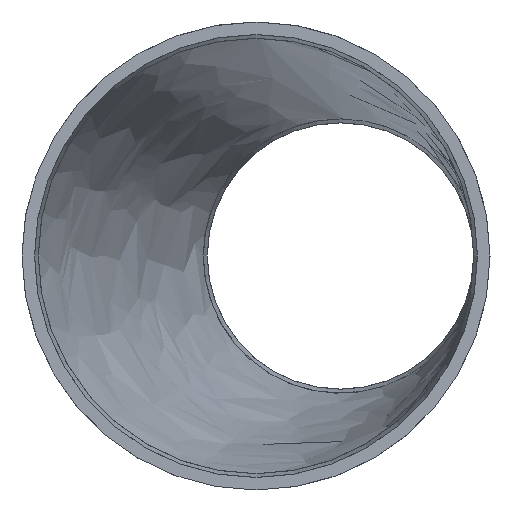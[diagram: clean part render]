
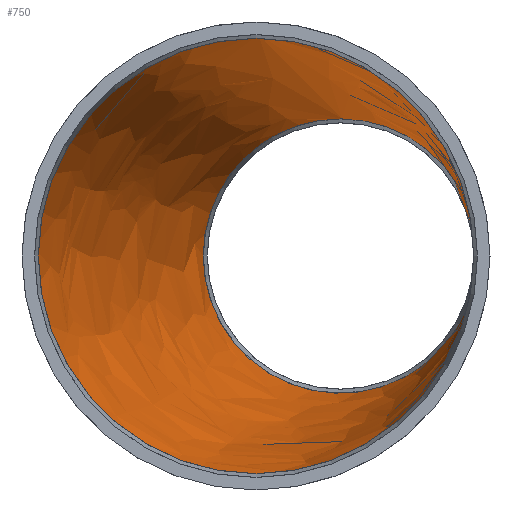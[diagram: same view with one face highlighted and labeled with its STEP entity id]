
A CAD part, left-side view. The second image highlights one B-rep face of the part: STEP entity #750.
In plain terms, the highlighted free-form (B-spline) face has degree [1, 2] with [2, 9] control points.
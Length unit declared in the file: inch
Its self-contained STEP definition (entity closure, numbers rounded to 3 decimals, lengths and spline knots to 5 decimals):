
#57=B_SPLINE_CURVE_WITH_KNOTS('',1,(#1385,#1386),.UNSPECIFIED.,.F.,.F.,
(2,2),(0.00123,3.55333),.UNSPECIFIED.);
#59=(
BOUNDED_SURFACE()
B_SPLINE_SURFACE(1,2,((#1367,#1368,#1369,#1370,#1371,#1372,#1373,#1374,
#1375),(#1376,#1377,#1378,#1379,#1380,#1381,#1382,#1383,#1384)),
 .UNSPECIFIED.,.F.,.T.,.F.)
B_SPLINE_SURFACE_WITH_KNOTS((2,2),(3,2,2,2,3),(-0.11192,3.61918),
(-3.14159,-1.5708,0.,1.5708,3.14159),
 .UNSPECIFIED.)
GEOMETRIC_REPRESENTATION_ITEM()
RATIONAL_B_SPLINE_SURFACE(((1.,0.707,1.,0.707,1.,
0.707,1.,0.707,1.),(1.,0.707,1.,0.707,
1.,0.707,1.,0.707,1.)))
REPRESENTATION_ITEM('')
SURFACE()
);
#127=FACE_OUTER_BOUND('',#159,.T.);
#159=EDGE_LOOP('',(#612,#613,#614,#615,#616,#617,#618,#619,#620,#621));
#209=CIRCLE('',#823,2.13);
#210=CIRCLE('',#824,2.13);
#211=CIRCLE('',#825,2.13);
#212=CIRCLE('',#826,2.13);
#223=CIRCLE('',#840,1.32);
#224=CIRCLE('',#841,1.32);
#225=CIRCLE('',#842,1.32);
#226=CIRCLE('',#843,1.32);
#298=VERTEX_POINT('',#1280);
#299=VERTEX_POINT('',#1281);
#300=VERTEX_POINT('',#1283);
#301=VERTEX_POINT('',#1285);
#311=VERTEX_POINT('',#1312);
#312=VERTEX_POINT('',#1313);
#313=VERTEX_POINT('',#1315);
#314=VERTEX_POINT('',#1317);
#391=EDGE_CURVE('',#298,#299,#209,.T.);
#392=EDGE_CURVE('',#299,#300,#210,.T.);
#393=EDGE_CURVE('',#300,#301,#211,.T.);
#395=EDGE_CURVE('',#301,#298,#212,.T.);
#407=EDGE_CURVE('',#311,#312,#223,.T.);
#408=EDGE_CURVE('',#312,#313,#224,.T.);
#409=EDGE_CURVE('',#313,#314,#225,.T.);
#411=EDGE_CURVE('',#314,#311,#226,.T.);
#435=EDGE_CURVE('',#299,#313,#57,.T.);
#612=ORIENTED_EDGE('',*,*,#391,.F.);
#613=ORIENTED_EDGE('',*,*,#395,.F.);
#614=ORIENTED_EDGE('',*,*,#393,.F.);
#615=ORIENTED_EDGE('',*,*,#392,.F.);
#616=ORIENTED_EDGE('',*,*,#435,.T.);
#617=ORIENTED_EDGE('',*,*,#408,.F.);
#618=ORIENTED_EDGE('',*,*,#407,.F.);
#619=ORIENTED_EDGE('',*,*,#411,.F.);
#620=ORIENTED_EDGE('',*,*,#409,.F.);
#621=ORIENTED_EDGE('',*,*,#435,.F.);
#750=ADVANCED_FACE('',(#127),#59,.T.);
#823=AXIS2_PLACEMENT_3D('',#1282,#1004,#1005);
#824=AXIS2_PLACEMENT_3D('',#1284,#1006,#1007);
#825=AXIS2_PLACEMENT_3D('',#1286,#1008,#1009);
#826=AXIS2_PLACEMENT_3D('',#1288,#1011,#1012);
#840=AXIS2_PLACEMENT_3D('',#1314,#1040,#1041);
#841=AXIS2_PLACEMENT_3D('',#1316,#1042,#1043);
#842=AXIS2_PLACEMENT_3D('',#1318,#1044,#1045);
#843=AXIS2_PLACEMENT_3D('',#1320,#1047,#1048);
#1004=DIRECTION('center_axis',(1.,0.,0.));
#1005=DIRECTION('ref_axis',(0.,1.,0.));
#1006=DIRECTION('center_axis',(1.,0.,0.));
#1007=DIRECTION('ref_axis',(0.,1.,0.));
#1008=DIRECTION('center_axis',(1.,0.,0.));
#1009=DIRECTION('ref_axis',(0.,1.,0.));
#1011=DIRECTION('center_axis',(1.,0.,0.));
#1012=DIRECTION('ref_axis',(0.,1.,0.));
#1040=DIRECTION('center_axis',(-1.,0.,0.));
#1041=DIRECTION('ref_axis',(0.,-1.,0.));
#1042=DIRECTION('center_axis',(-1.,0.,0.));
#1043=DIRECTION('ref_axis',(0.,-1.,0.));
#1044=DIRECTION('center_axis',(-1.,0.,0.));
#1045=DIRECTION('ref_axis',(0.,-1.,0.));
#1047=DIRECTION('center_axis',(-1.,0.,0.));
#1048=DIRECTION('ref_axis',(0.,-1.,0.));
#1280=CARTESIAN_POINT('',(1.26,-2.12345,-0.16696));
#1281=CARTESIAN_POINT('',(1.26,-0.02448,2.12986));
#1282=CARTESIAN_POINT('Origin',(1.26,0.,0.));
#1283=CARTESIAN_POINT('',(1.26,-2.12345,0.16696));
#1284=CARTESIAN_POINT('Origin',(1.26,0.,0.));
#1285=CARTESIAN_POINT('',(1.26,-2.13,0.));
#1286=CARTESIAN_POINT('Origin',(1.26,0.,0.));
#1288=CARTESIAN_POINT('Origin',(1.26,0.,0.));
#1312=CARTESIAN_POINT('',(8.74,-2.12844,-0.10347));
#1313=CARTESIAN_POINT('',(8.74,-2.12844,0.10347));
#1314=CARTESIAN_POINT('Origin',(8.74,-0.8125,0.));
#1315=CARTESIAN_POINT('',(8.74,-0.82767,1.31991));
#1316=CARTESIAN_POINT('Origin',(8.74,-0.8125,0.));
#1317=CARTESIAN_POINT('',(8.74,0.5075,0.));
#1318=CARTESIAN_POINT('Origin',(8.74,-0.8125,0.));
#1320=CARTESIAN_POINT('Origin',(8.74,-0.8125,0.));
#1367=CARTESIAN_POINT('Ctrl Pts',(1.02173,0.0011,
2.15566));
#1368=CARTESIAN_POINT('Ctrl Pts',(0.79291,-2.12984,2.15566));
#1369=CARTESIAN_POINT('Ctrl Pts',(0.79291,-2.12984,0.));
#1370=CARTESIAN_POINT('Ctrl Pts',(0.79291,-2.12984,-2.15566));
#1371=CARTESIAN_POINT('Ctrl Pts',(1.02173,0.0011,
-2.15566));
#1372=CARTESIAN_POINT('Ctrl Pts',(1.25055,2.13205,-2.15566));
#1373=CARTESIAN_POINT('Ctrl Pts',(1.25055,2.13205,0.));
#1374=CARTESIAN_POINT('Ctrl Pts',(1.25055,2.13205,2.15566));
#1375=CARTESIAN_POINT('Ctrl Pts',(1.02173,0.0011,
2.15566));
#1376=CARTESIAN_POINT('Ctrl Pts',(8.87866,-0.84256,1.3049));
#1377=CARTESIAN_POINT('Ctrl Pts',(8.74015,-2.1325,1.3049));
#1378=CARTESIAN_POINT('Ctrl Pts',(8.74015,-2.1325,0.));
#1379=CARTESIAN_POINT('Ctrl Pts',(8.74015,-2.1325,-1.3049));
#1380=CARTESIAN_POINT('Ctrl Pts',(8.87866,-0.84256,-1.3049));
#1381=CARTESIAN_POINT('Ctrl Pts',(9.01717,0.44738,-1.3049));
#1382=CARTESIAN_POINT('Ctrl Pts',(9.01717,0.44738,0.));
#1383=CARTESIAN_POINT('Ctrl Pts',(9.01717,0.44738,1.3049));
#1384=CARTESIAN_POINT('Ctrl Pts',(8.87866,-0.84256,1.3049));
#1385=CARTESIAN_POINT('Ctrl Pts',(1.26,-0.02448,2.12986));
#1386=CARTESIAN_POINT('Ctrl Pts',(8.74,-0.82767,1.31991));
